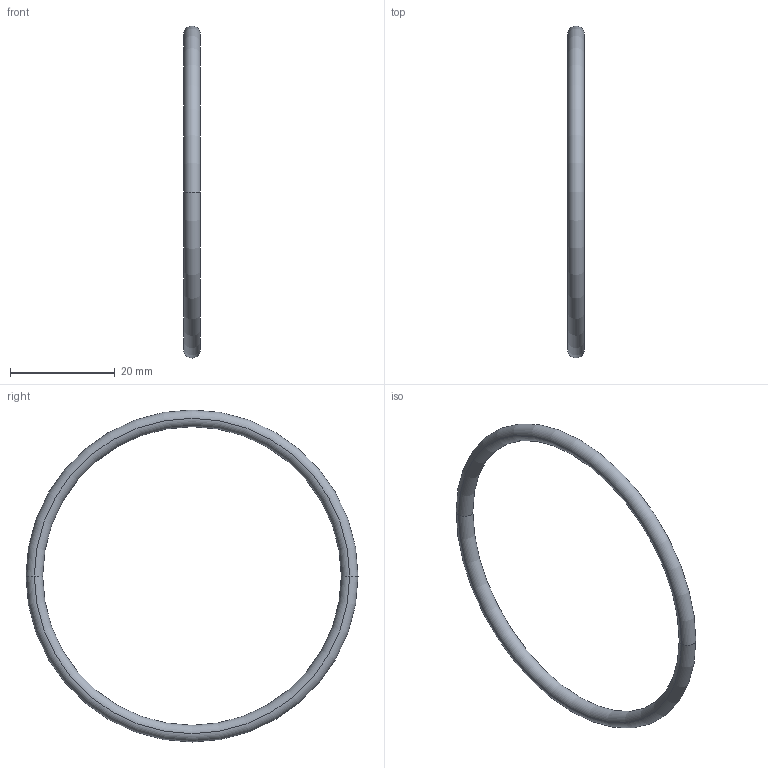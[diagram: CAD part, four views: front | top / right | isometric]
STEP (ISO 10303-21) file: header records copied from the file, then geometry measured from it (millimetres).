
FILE_DESCRIPTION(/* description */ ('VariCAD 2010-1.04 AP-203'),/* implementation_level */ '2;1');
FILE_NAME(/* name */ '0353-30-09',/* time_stamp */ '2010-01-13T01:02:01-07:00',/* author */ (''),/* organization */ (''),/* preprocessor_version */ 'ST-DEVELOPER v12',/* originating_system */ 'VariCAD 2010-1.04; kernel version (20090520)',/* authorisation */ '');
FILE_SCHEMA (('CONFIG_CONTROL_DESIGN'));
Length unit declared in the file: millimetre
Products named in the file (1): Part
Bounding box: 3.18 x 63.33 x 63.33 mm (x, y, z)
Volume: 1500.8 mm3; surface area: 1887.8 mm2
Topology: 1 solids, 1 shells, 4 faces, 8 edges, 4 vertices
Faces by surface type: torus 4
Entity records: 158 total; most frequent: DIRECTION 28, CARTESIAN_POINT 18, ORIENTED_EDGE 16, AXIS2_PLACEMENT_3D 14, EDGE_CURVE 8, CIRCLE 8, CC_DESIGN_PERSON_AND_ORGANIZATION_ASSIGNMENT 4, PERSON_AND_ORGANIZATION_ROLE 4
